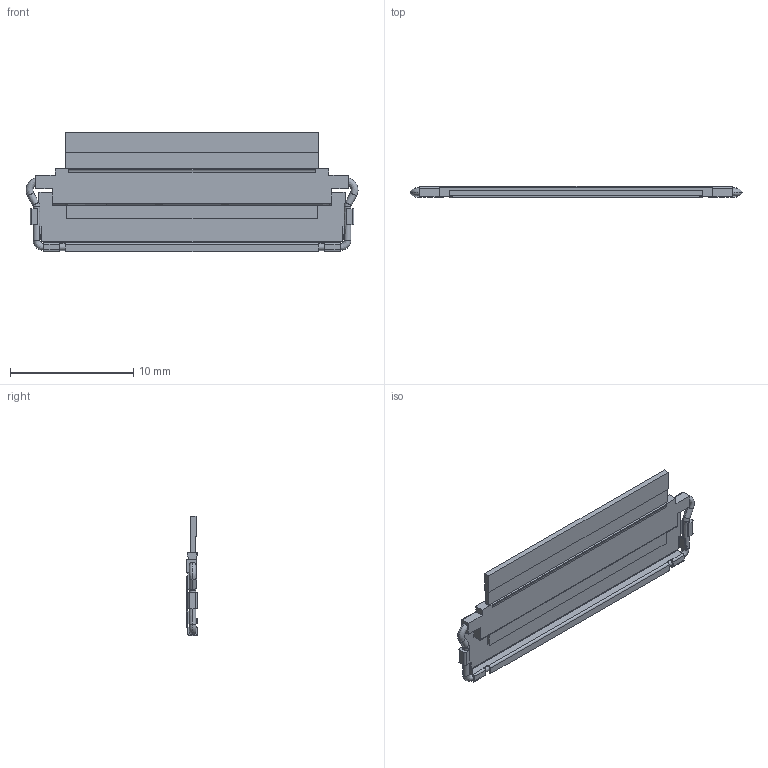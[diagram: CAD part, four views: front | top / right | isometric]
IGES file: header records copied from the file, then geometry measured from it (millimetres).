
Start section: SolidWorks IGES file using analytic representation for surfaces
Global section: file name: C:\3dwork\watanabe\20221102 CABLINE－CAII F中埋めモデル\20856C_SWmodel\20856-050T-01 FPC ASS'Y IGES R3 ALL.IGS; native system: SolidWorks 2020; preprocessor: SolidWorks 2020; author: E1480; date: 221104.101812; units: millimetre
Bounding box: 26.95 x 0.95 x 9.7 mm (x, y, z)
Surface area: 649.8 mm2 (no closed solid volume)
Topology: 0 solids, 0 shells, 605 faces, 3954 edges, 3954 vertices
Faces by surface type: bspline 536, revolution 69
